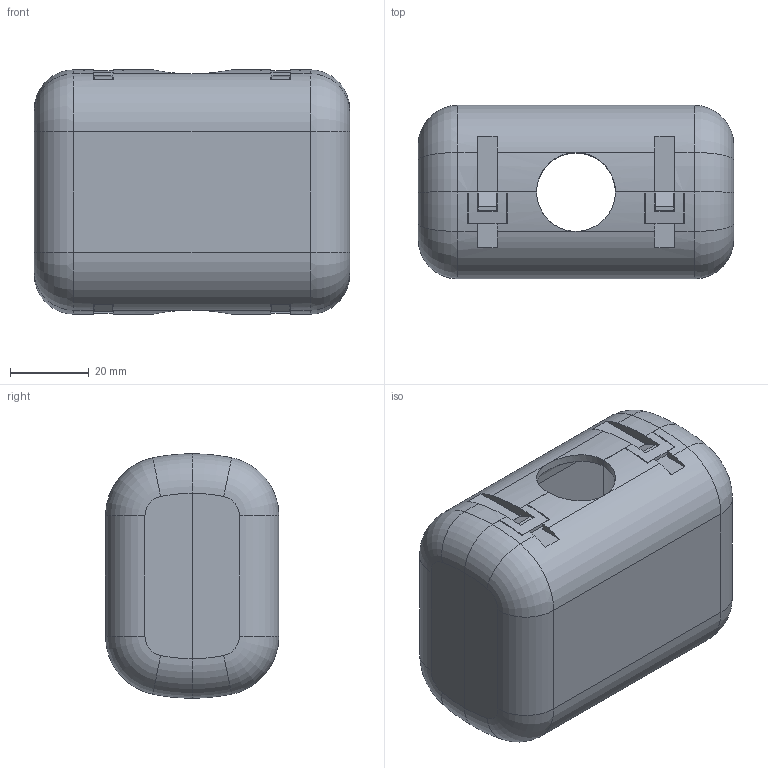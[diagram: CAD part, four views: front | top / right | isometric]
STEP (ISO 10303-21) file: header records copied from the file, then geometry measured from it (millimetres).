
FILE_DESCRIPTION (( 'STEP AP203' ), '1' );
FILE_NAME ('扻豵鵨_捘.STEP', '2018-09-04T06:40:52', ( '' ), ( '' ), 'SwSTEP 2.0', 'SolidWorks 2017', '' );
FILE_SCHEMA (( 'CONFIG_CONTROL_DESIGN' ));
Length unit declared in the file: millimetre
Products named in the file (3): 扻豵鵨 (瀁鋋睯縺); Êîðïóñ (ïîëîâèíà ñ ìàðêèðîâêîé); 扻豵鵨_捘
Assembly tree (2 placements, depth 2):
  扻豵鵨_捘
    Êîðïóñ (ïîëîâèíà ñ ìàðêèðîâêîé)
    扻豵鵨 (瀁鋋睯縺)
Bounding box: 80 x 44.1 x 62 mm (x, y, z)
Volume: 35219.7 mm3; surface area: 35806.3 mm2
Topology: 2 solids, 2 shells, 590 faces, 1617 edges, 1054 vertices
Faces by surface type: plane 375, bspline 129, cylinder 54, torus 32
Entity records: 26310 total; most frequent: CARTESIAN_POINT 11821, ORIENTED_EDGE 3234, DIRECTION 2467, EDGE_CURVE 1617, LINE 1119, VECTOR 1119, VERTEX_POINT 1054, AXIS2_PLACEMENT_3D 674
